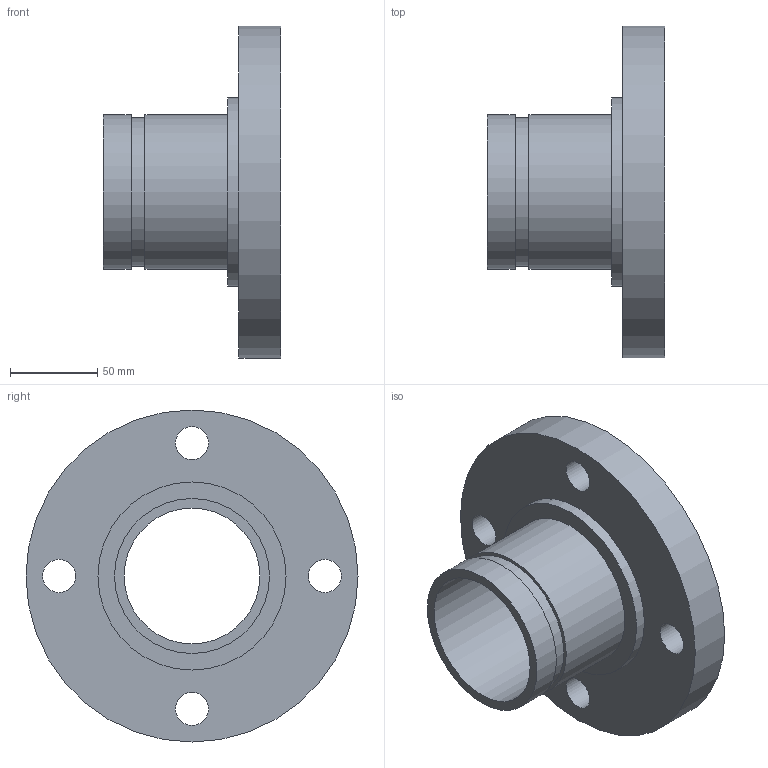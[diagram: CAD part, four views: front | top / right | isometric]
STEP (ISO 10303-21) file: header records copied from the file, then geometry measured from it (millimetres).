
FILE_DESCRIPTION(/* description */ ('VIC FLANGE ADAPTER No 45F','CAx-IF Rec.Pracs.---Representation and Presentation of Product Manufacturing Information (PMI)---4.0---2014-10-13'),/* implementation_level */ '2;1');
FILE_NAME(/* name */ 'C:\Users\kkamble\AppData\Roaming\Autodesk\ApplicationPlugins\Back Up\Victaulic_IPS_Flanged Adapter Nipple_CL 150 FF_No 45F (OGSxFLG)\Victaulic_IPS_Flanged Adapter Nipple_CL 150 FF_No 45F (OGSxFLG)_3 (80).stp',/* time_stamp */ '2020-07-26T22:22:56+06:00',/* author */ ('CONSTRUCTION PIPING SERVICES'),/* organization */ ('Victaulic'),/* preprocessor_version */ 'ST-DEVELOPER v17.2',/* originating_system */ 'Autodesk Inventor 2019',/* authorisation */ '');
FILE_SCHEMA (('AP242_MANAGED_MODEL_BASED_3D_ENGINEERING_MIM_LF { 1 0 10303 442 1 1 4 }'));
Length unit declared in the file: inch
Products named in the file (1): 045F-03.0
Bounding box: 101.6 x 190.5 x 190.5 mm (x, y, z)
Volume: 665571.2 mm3; surface area: 113134 mm2
Topology: 1 solids, 1 shells, 16 faces, 42 edges, 32 vertices
Faces by surface type: cylinder 10, plane 6
Full cylindrical faces by diameter (mm): 19.05 x4, 77.927 x1, 84.938 x1, 88.9 x2, 107.95 x1, 190.5 x1
Entity records: 622 total; most frequent: DIRECTION 108, CARTESIAN_POINT 91, ORIENTED_EDGE 84, AXIS2_PLACEMENT_3D 49, EDGE_CURVE 42, CIRCLE 32, VERTEX_POINT 32, EDGE_LOOP 30
